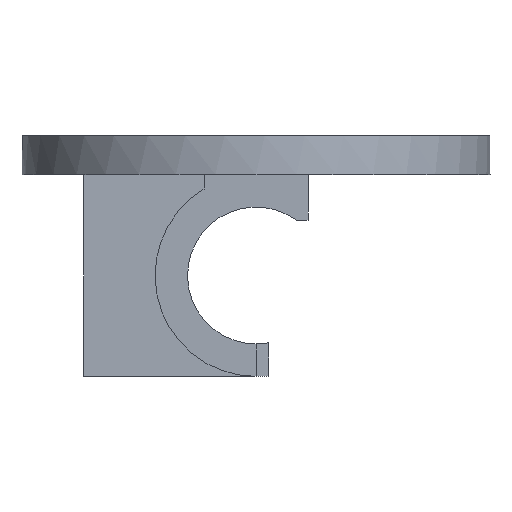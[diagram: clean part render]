
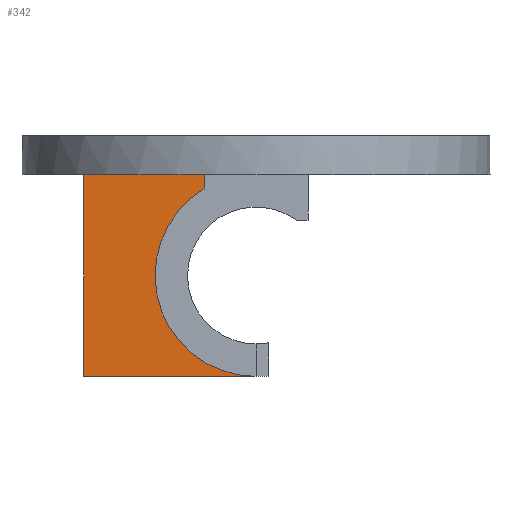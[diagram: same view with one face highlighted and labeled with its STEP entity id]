
A CAD part, left-side view. The second image highlights one B-rep face of the part: STEP entity #342.
In plain terms, the highlighted planar face has unit normal (-1, 0, 0).
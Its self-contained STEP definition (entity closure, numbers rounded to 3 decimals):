
#33 = CYLINDRICAL_SURFACE('',#34,15.525);
#34 = AXIS2_PLACEMENT_3D('',#35,#36,#37);
#35 = CARTESIAN_POINT('',(-18.,0.,0.));
#36 = DIRECTION('',(-1.,-0.,-0.));
#37 = DIRECTION('',(0.,1.,0.));
#58 = VERTEX_POINT('',#59);
#59 = CARTESIAN_POINT('',(-17.,0.,-15.525));
#83 = EDGE_CURVE('',#84,#58,#86,.T.);
#84 = VERTEX_POINT('',#85);
#85 = CARTESIAN_POINT('',(-17.,8.,13.305));
#86 = SURFACE_CURVE('',#87,(#92,#99),.PCURVE_S1.);
#87 = CIRCLE('',#88,15.525);
#88 = AXIS2_PLACEMENT_3D('',#89,#90,#91);
#89 = CARTESIAN_POINT('',(-17.,0.,0.));
#90 = DIRECTION('',(-1.,0.,0.));
#91 = DIRECTION('',(0.,1.,0.));
#92 = PCURVE('',#33,#93);
#93 = DEFINITIONAL_REPRESENTATION('',(#94),#98);
#94 = LINE('',#95,#96);
#95 = CARTESIAN_POINT('',(-12.566,-1.));
#96 = VECTOR('',#97,1.);
#97 = DIRECTION('',(1.,-0.));
#98 = ( GEOMETRIC_REPRESENTATION_CONTEXT(2) 
PARAMETRIC_REPRESENTATION_CONTEXT() REPRESENTATION_CONTEXT('2D SPACE',''
  ) );
#99 = PCURVE('',#100,#105);
#100 = PLANE('',#101);
#101 = AXIS2_PLACEMENT_3D('',#102,#103,#104);
#102 = CARTESIAN_POINT('',(-17.,-2.,-15.525));
#103 = DIRECTION('',(1.,0.,0.));
#104 = DIRECTION('',(0.,0.,1.));
#105 = DEFINITIONAL_REPRESENTATION('',(#106),#114);
#106 = ( BOUNDED_CURVE() B_SPLINE_CURVE(2,(#107,#108,#109,#110,#111,#112
,#113),.UNSPECIFIED.,.T.,.F.) B_SPLINE_CURVE_WITH_KNOTS((1,2,2,2,2,1),(
    -2.094,0.,2.094,4.189,6.283,
8.378),.UNSPECIFIED.) CURVE() GEOMETRIC_REPRESENTATION_ITEM() 
RATIONAL_B_SPLINE_CURVE((1.,0.5,1.,0.5,1.,0.5,1.)) REPRESENTATION_ITEM(
  '') );
#107 = CARTESIAN_POINT('',(15.525,-17.525));
#108 = CARTESIAN_POINT('',(-11.365,-17.525));
#109 = CARTESIAN_POINT('',(2.08,5.763));
#110 = CARTESIAN_POINT('',(15.525,29.05));
#111 = CARTESIAN_POINT('',(28.97,5.763));
#112 = CARTESIAN_POINT('',(42.415,-17.525));
#113 = CARTESIAN_POINT('',(15.525,-17.525));
#114 = ( GEOMETRIC_REPRESENTATION_CONTEXT(2) 
PARAMETRIC_REPRESENTATION_CONTEXT() REPRESENTATION_CONTEXT('2D SPACE',''
  ) );
#129 = PLANE('',#130);
#130 = AXIS2_PLACEMENT_3D('',#131,#132,#133);
#131 = CARTESIAN_POINT('',(-18.,8.,8.525));
#132 = DIRECTION('',(0.,1.,0.));
#133 = DIRECTION('',(0.,0.,1.));
#204 = PLANE('',#205);
#205 = AXIS2_PLACEMENT_3D('',#206,#207,#208);
#206 = CARTESIAN_POINT('',(0.,0.,15.525
    ));
#207 = DIRECTION('',(0.,0.,1.));
#208 = DIRECTION('',(1.,0.,-0.));
#303 = VERTEX_POINT('',#304);
#304 = CARTESIAN_POINT('',(-17.,8.,15.525));
#323 = EDGE_CURVE('',#84,#303,#324,.T.);
#324 = SURFACE_CURVE('',#325,(#329,#335),.PCURVE_S1.);
#325 = LINE('',#326,#327);
#326 = CARTESIAN_POINT('',(-17.,8.,-3.5));
#327 = VECTOR('',#328,1.);
#328 = DIRECTION('',(0.,0.,1.));
#329 = PCURVE('',#129,#330);
#330 = DEFINITIONAL_REPRESENTATION('',(#331),#334);
#331 = B_SPLINE_CURVE_WITH_KNOTS('',1,(#332,#333),.UNSPECIFIED.,.F.,.F.,
  (2,2),(12.025,19.025),.PIECEWISE_BEZIER_KNOTS.);
#332 = CARTESIAN_POINT('',(0.,1.));
#333 = CARTESIAN_POINT('',(7.,1.));
#334 = ( GEOMETRIC_REPRESENTATION_CONTEXT(2) 
PARAMETRIC_REPRESENTATION_CONTEXT() REPRESENTATION_CONTEXT('2D SPACE',''
  ) );
#335 = PCURVE('',#100,#336);
#336 = DEFINITIONAL_REPRESENTATION('',(#337),#340);
#337 = B_SPLINE_CURVE_WITH_KNOTS('',1,(#338,#339),.UNSPECIFIED.,.F.,.F.,
  (2,2),(12.025,19.025),.PIECEWISE_BEZIER_KNOTS.);
#338 = CARTESIAN_POINT('',(24.05,-10.));
#339 = CARTESIAN_POINT('',(31.05,-10.));
#340 = ( GEOMETRIC_REPRESENTATION_CONTEXT(2) 
PARAMETRIC_REPRESENTATION_CONTEXT() REPRESENTATION_CONTEXT('2D SPACE',''
  ) );
#342 = ADVANCED_FACE('',(#343),#100,.F.);
#343 = FACE_BOUND('',#344,.F.);
#344 = EDGE_LOOP('',(#345,#368,#369,#370,#398));
#345 = ORIENTED_EDGE('',*,*,#346,.F.);
#346 = EDGE_CURVE('',#303,#347,#349,.T.);
#347 = VERTEX_POINT('',#348);
#348 = CARTESIAN_POINT('',(-17.,26.525,15.525));
#349 = SURFACE_CURVE('',#350,(#354,#361),.PCURVE_S1.);
#350 = LINE('',#351,#352);
#351 = CARTESIAN_POINT('',(-17.,-2.,15.525));
#352 = VECTOR('',#353,1.);
#353 = DIRECTION('',(0.,1.,0.));
#354 = PCURVE('',#100,#355);
#355 = DEFINITIONAL_REPRESENTATION('',(#356),#360);
#356 = LINE('',#357,#358);
#357 = CARTESIAN_POINT('',(31.05,0.));
#358 = VECTOR('',#359,1.);
#359 = DIRECTION('',(0.,-1.));
#360 = ( GEOMETRIC_REPRESENTATION_CONTEXT(2) 
PARAMETRIC_REPRESENTATION_CONTEXT() REPRESENTATION_CONTEXT('2D SPACE',''
  ) );
#361 = PCURVE('',#204,#362);
#362 = DEFINITIONAL_REPRESENTATION('',(#363),#367);
#363 = LINE('',#364,#365);
#364 = CARTESIAN_POINT('',(-17.,-2.));
#365 = VECTOR('',#366,1.);
#366 = DIRECTION('',(0.,1.));
#367 = ( GEOMETRIC_REPRESENTATION_CONTEXT(2) 
PARAMETRIC_REPRESENTATION_CONTEXT() REPRESENTATION_CONTEXT('2D SPACE',''
  ) );
#368 = ORIENTED_EDGE('',*,*,#323,.F.);
#369 = ORIENTED_EDGE('',*,*,#83,.T.);
#370 = ORIENTED_EDGE('',*,*,#371,.T.);
#371 = EDGE_CURVE('',#58,#372,#374,.T.);
#372 = VERTEX_POINT('',#373);
#373 = CARTESIAN_POINT('',(-17.,26.525,-15.525));
#374 = SURFACE_CURVE('',#375,(#379,#386),.PCURVE_S1.);
#375 = LINE('',#376,#377);
#376 = CARTESIAN_POINT('',(-17.,-2.,-15.525));
#377 = VECTOR('',#378,1.);
#378 = DIRECTION('',(0.,1.,0.));
#379 = PCURVE('',#100,#380);
#380 = DEFINITIONAL_REPRESENTATION('',(#381),#385);
#381 = LINE('',#382,#383);
#382 = CARTESIAN_POINT('',(0.,0.));
#383 = VECTOR('',#384,1.);
#384 = DIRECTION('',(0.,-1.));
#385 = ( GEOMETRIC_REPRESENTATION_CONTEXT(2) 
PARAMETRIC_REPRESENTATION_CONTEXT() REPRESENTATION_CONTEXT('2D SPACE',''
  ) );
#386 = PCURVE('',#387,#392);
#387 = PLANE('',#388);
#388 = AXIS2_PLACEMENT_3D('',#389,#390,#391);
#389 = CARTESIAN_POINT('',(-17.,-2.,-15.525));
#390 = DIRECTION('',(0.,0.,1.));
#391 = DIRECTION('',(1.,0.,0.));
#392 = DEFINITIONAL_REPRESENTATION('',(#393),#397);
#393 = LINE('',#394,#395);
#394 = CARTESIAN_POINT('',(0.,0.));
#395 = VECTOR('',#396,1.);
#396 = DIRECTION('',(0.,1.));
#397 = ( GEOMETRIC_REPRESENTATION_CONTEXT(2) 
PARAMETRIC_REPRESENTATION_CONTEXT() REPRESENTATION_CONTEXT('2D SPACE',''
  ) );
#398 = ORIENTED_EDGE('',*,*,#399,.T.);
#399 = EDGE_CURVE('',#372,#347,#400,.T.);
#400 = SURFACE_CURVE('',#401,(#405,#412),.PCURVE_S1.);
#401 = LINE('',#402,#403);
#402 = CARTESIAN_POINT('',(-17.,26.525,-15.525));
#403 = VECTOR('',#404,1.);
#404 = DIRECTION('',(0.,0.,1.));
#405 = PCURVE('',#100,#406);
#406 = DEFINITIONAL_REPRESENTATION('',(#407),#411);
#407 = LINE('',#408,#409);
#408 = CARTESIAN_POINT('',(0.,-28.525));
#409 = VECTOR('',#410,1.);
#410 = DIRECTION('',(1.,0.));
#411 = ( GEOMETRIC_REPRESENTATION_CONTEXT(2) 
PARAMETRIC_REPRESENTATION_CONTEXT() REPRESENTATION_CONTEXT('2D SPACE',''
  ) );
#412 = PCURVE('',#413,#418);
#413 = PLANE('',#414);
#414 = AXIS2_PLACEMENT_3D('',#415,#416,#417);
#415 = CARTESIAN_POINT('',(-17.,26.525,-15.525));
#416 = DIRECTION('',(0.,1.,0.));
#417 = DIRECTION('',(0.,0.,1.));
#418 = DEFINITIONAL_REPRESENTATION('',(#419),#423);
#419 = LINE('',#420,#421);
#420 = CARTESIAN_POINT('',(0.,0.));
#421 = VECTOR('',#422,1.);
#422 = DIRECTION('',(1.,0.));
#423 = ( GEOMETRIC_REPRESENTATION_CONTEXT(2) 
PARAMETRIC_REPRESENTATION_CONTEXT() REPRESENTATION_CONTEXT('2D SPACE',''
  ) );
